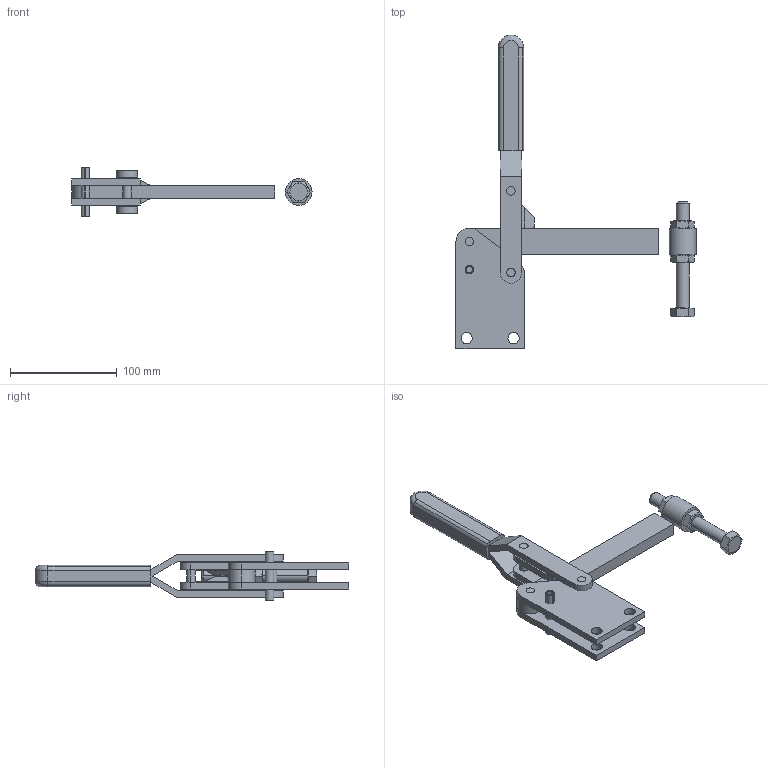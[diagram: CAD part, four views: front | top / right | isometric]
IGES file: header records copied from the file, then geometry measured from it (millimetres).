
Start section:  Level              Description ========  ================================        1  SANDFIELD
Global section: file name: D:/WORK/SANDFIELD/sandfield_3d/Vertical_Action/MG/Mg1/mg1.IGS; native system: AutoCAD-13_c4a_Mh (HwLock) (Microsoft Windows NT Version 4.0 (x86)); preprocessor: AutoCAD IGES Translator R13.1c2 (Jan 23 1997) from Autodesk, Inc.; author: ProCAD; organization: Sandfield Eng Co.; date: 990520.143443; units: millimetre
Bounding box: 225 x 294 x 45 mm (x, y, z)
Volume: 283640.7 mm3; surface area: 97235.8 mm2
Topology: 16 solids, 16 shells, 217 faces, 552 edges, 368 vertices
Faces by surface type: bspline 78, plane 65, cylinder 64, torus 8, cone 2
